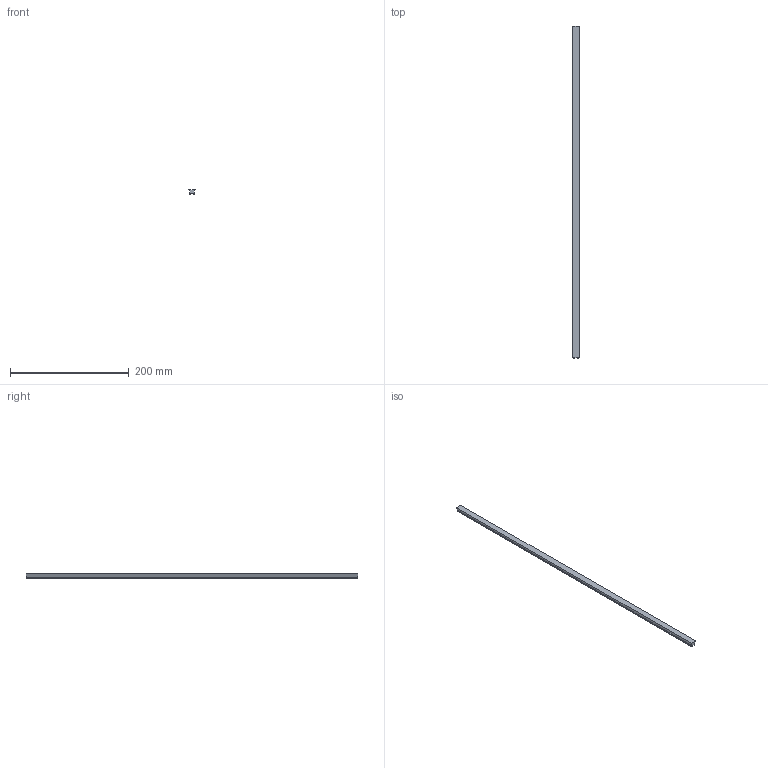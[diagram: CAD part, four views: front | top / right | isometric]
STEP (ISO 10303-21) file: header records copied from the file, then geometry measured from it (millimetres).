
FILE_DESCRIPTION(('CAx-IF Rec.Pracs.---Model Styling and Organization---1.2---2011-12-15','CAx-IF Rec.Pracs.---Geometric and Assembly Validation Properties---4.1---2014-06-16','CAx-IF Rec.Pracs.---PMI Polyline Presentation---2.0---2013-05-24'),'2;1');
FILE_NAME('01WY91LY03.stp','2017-02-01T13:17:43+01:00',(''),(''),'STEP Interface 4.0 Sp1 by CT CoreTechnologie','3D_Evolution4.0 Sp1 by CT CoreTechnologie','');
FILE_SCHEMA(('AP203_CONFIGURATION_CONTROLLED_3D_DESIGN_OF_MECHANICAL_PARTS_AND_ASSEMBLIES_MIM_LF'));
Length unit declared in the file: metre
Products named in the file (1): 01W-91L-03
Bounding box: 10.3 x 560 x 7.9 mm (x, y, z)
Volume: 30411 mm3; surface area: 21375.1 mm2
Topology: 1 solids, 1 shells, 16 faces, 42 edges, 28 vertices
Faces by surface type: plane 14, cylinder 2
Entity records: 634 total; most frequent: CARTESIAN_POINT 87, ORIENTED_EDGE 84, DIRECTION 80, EDGE_CURVE 42, VECTOR 38, LINE 38, VERTEX_POINT 28, AXIS2_PLACEMENT_3D 21
